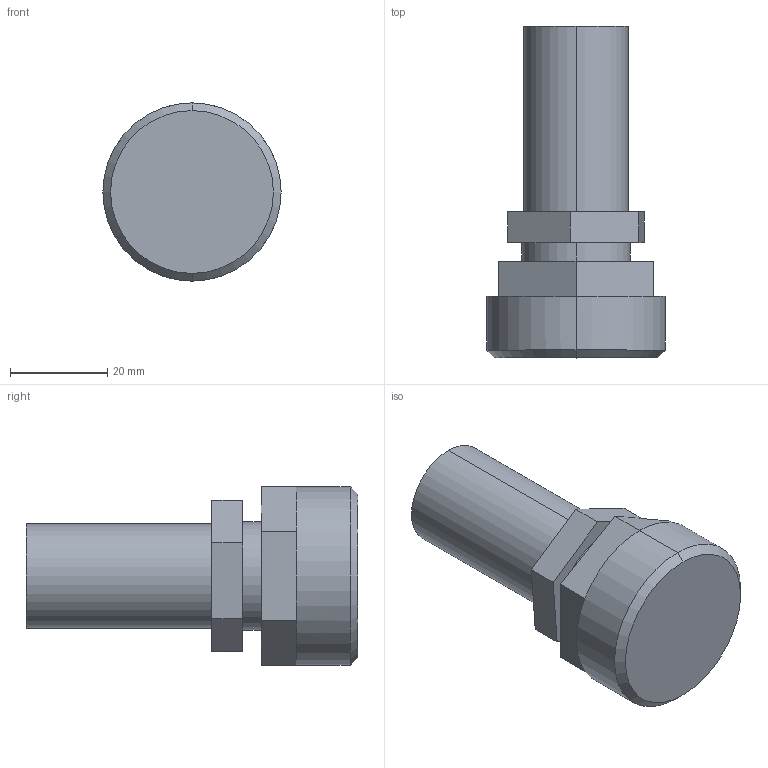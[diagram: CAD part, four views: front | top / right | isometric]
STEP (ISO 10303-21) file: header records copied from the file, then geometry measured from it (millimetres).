
FILE_DESCRIPTION (( 'STEP AP214' ), '1' );
FILE_NAME ('08-weldable-with-top-mount-adapter.STEP', '2012-11-28T15:43:29', ( '' ), ( '' ), 'SwSTEP 2.0', 'SolidWorks 2012', '' );
FILE_SCHEMA (( 'AUTOMOTIVE_DESIGN' ));
Length unit declared in the file: inch
Products named in the file (1): 08-weldable-with-top-mount-adapter
Bounding box: 36.6 x 68.12 x 36.66 mm (x, y, z)
Volume: 38723.1 mm3; surface area: 8156.7 mm2
Topology: 1 solids, 1 shells, 37 faces, 82 edges, 50 vertices
Faces by surface type: plane 29, cylinder 6, cone 2
Entity records: 1531 total; most frequent: DIRECTION 184, CARTESIAN_POINT 170, ORIENTED_EDGE 164, EDGE_CURVE 82, AXIS2_PLACEMENT_3D 64, VECTOR 56, LINE 56, VERTEX_POINT 50
